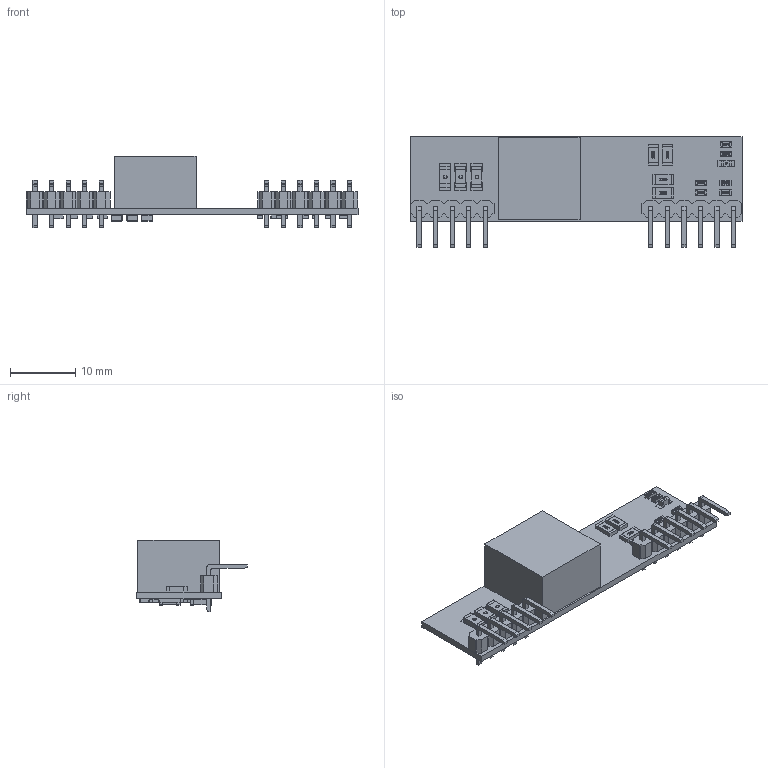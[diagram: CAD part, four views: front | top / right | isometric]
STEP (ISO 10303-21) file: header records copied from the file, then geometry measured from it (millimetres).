
FILE_DESCRIPTION(('Creo Elements/Direct Modeling STEP Export'),'2;1');
FILE_NAME('NID35-STP.stp','2020-06-19T11:11:11',(''),(''),'PTC Creo Elements/Direct Modeling STEP processor for AP214 (Solid Model)','PTC Creo Elements/Direct Modeling 19.0E 27-Jun-2016 (C) Parametric Technology GmbH','');
FILE_SCHEMA(('AUTOMOTIVE_DESIGN { 1 0 10303 214 1 1 1 1 }'));
Length unit declared in the file: millimetre
Products named in the file (78): L1; USER_LIBRARY-CAP1206_CAP1206_BO.PRT; USER_LIBRARY-CAP1206_PAD_1206_1.PRT; USER_LIBRARY-CAP1206_PAD_1206_2.PRT; USER_LIBRARY-CAP1206_PAD_1206__.ASM; CAPACITOR_1206_SMD.ASM; C38.ASM; C37.ASM; USER_LIBRARY-RES_1609-0603_1.PRT; USER_LIBRARY-RES_1609-0603_2.PRT; USER_LIBRARY-RES_1609-0603_3.PRT; USER_LIBRARY-RES_1609-0603_4.PRT; USER_LIBRARY-RES_1609-0603.ASM; R15.ASM; C36.ASM; R8.ASM; C4.ASM; R11.ASM; R1.ASM; R2.ASM; R4.ASM; R5.ASM; R3.ASM; C6.ASM; C7.ASM; C5.ASM; R0805_1.PRT; R0805_2.PRT; R0805.ASM; C9.ASM; C8.ASM; R1206_1.PRT; R1206_2.PRT; R1206.ASM; C35.ASM; C33.ASM; C34.ASM; R7.ASM; R9.ASM; R6.ASM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
Assembly tree (111 placements, depth 6):
  NID35
    pcb
      BOARD.PRT
    PIN
      1FF1JS1110-06
        JS11201.1.1.1.1.1.1.1.1.1.1.1
        JS11201.1.1.1.1.1.1.1.1.1
        JS11201.1.1.1.1.1.1.1.1.1.1
        JS11201.1.1.1.1.1.1.1.1
        JS11201.1.1.1.1.1.1.1.1.1.1.1.1
        JS11201.1.1.1.1.1.1.1
        JS1120
      1FF1JS1110-05
        JS11201.1.1.1.1.1.2.1.1
        JS11201.1.1.1.1.1.2.1
        JS11201.1.1.1.1.1.2
        JS11201.1.1.1.1.1.2.1.1.1
        JS1120
        JS11201.1.1.1.1.1
    PART
      C23.ASM
        R1206.ASM
          R1206_2.PRT
          R1206_1.PRT
      C32.ASM
        R1206.ASM
          R1206_2.PRT
          R1206_1.PRT
      C21.ASM
        R1206.ASM
          R1206_2.PRT
          R1206_1.PRT
      C20.ASM
        R1206.ASM
          R1206_2.PRT
          R1206_1.PRT
      C10.ASM
        R0805.ASM  x2
          R0805_2.PRT
          R0805_1.PRT
      C11.ASM
        R0805.ASM  x2
          R0805_2.PRT
          R0805_1.PRT
      C22.ASM
        R1206.ASM
          R1206_2.PRT
          R1206_1.PRT
      C1.ASM
        CAPACITOR_0603_SMD.ASM
          USER_LIBRARY-CAP0603_PAD_0603__.ASM
            USER_LIBRARY-CAP0603_PAD_0603_2.PRT
            USER_LIBRARY-CAP0603_PAD_0603_1.PRT
          USER_LIBRARY-CAP0603_CAP0603_BO.PRT
      C30A.ASM
        CAPACITOR_1206_SMD.ASM
          USER_LIBRARY-CAP1206_PAD_1206__.ASM
            USER_LIBRARY-CAP1206_PAD_1206_2.PRT
            USER_LIBRARY-CAP1206_PAD_1206_1.PRT
          USER_LIBRARY-CAP1206_CAP1206_BO.PRT
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Bounding box: 50.93 x 17 x 11 mm (x, y, z)
Volume: 2183 mm3; surface area: 3545.9 mm2
Topology: 136 solids, 136 shells, 3526 faces, 8921 edges, 5854 vertices
Faces by surface type: plane 1943, extrusion 1371, cylinder 156, sphere 56
Entity records: 30732 total; most frequent: CARTESIAN_POINT 10664, ORIENTED_EDGE 3618, DIRECTION 3146, EDGE_CURVE 1809, VECTOR 1516, LINE 1375, VERTEX_POINT 1190, AXIS2_PLACEMENT_3D 815
